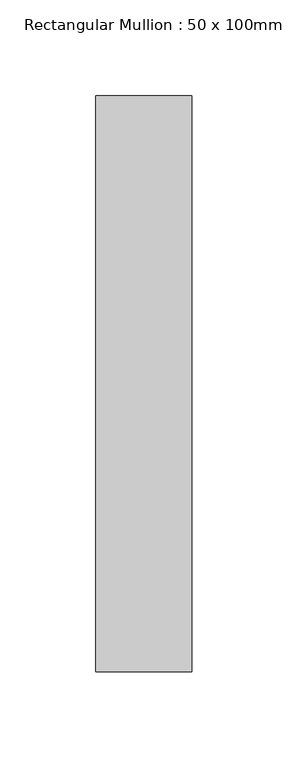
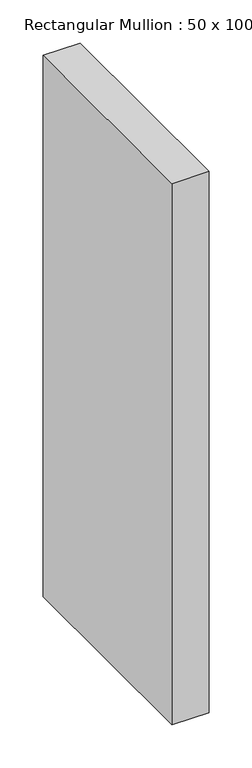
"""IFC4 building model written with IfcOpenShell, lengths in millimetres: member geometry, Rectangular Mullion : 50 x 100mm."""

from ifc_helpers import new_model, si_unit, frame, origin, place, context, project, spatial, polyline, outline, extrude, source, transform, mapped, element, save


def rectangular_mullion_50_x_100mm_762bf241(model_context):
    return source(origin(), model_context, "Body", "SweptSolid", [
        extrude(outline(polyline([(0.0, 175.0), (0.0, -125.0), (-50.0, -125.0), (-50.0, 175.0), (0.0, 175.0)])), frame((0.0, 0.0, -767.7583416), z_axis=(0.0, 0.0, 1.0), x_axis=(1.0, 0.0, 0.0)), (0.0, 0.0, 1.0), 767.7583416),
    ])


if __name__ == "__main__":
    model = new_model("IFC4")
    model_context = context("Model", 3, world=origin())
    ifc_project = project(units=[si_unit("LENGTHUNIT", "METRE", prefix="MILLI")], contexts=[model_context])
    site = spatial("IfcSite", under=ifc_project)
    building = spatial("IfcBuilding", under=site)
    placement = place(None, origin())
    rectangular_mullion_50_x_100mm_shape = rectangular_mullion_50_x_100mm_762bf241(model_context)
    element("IfcMember", 1, ObjectType="Rectangular Mullion : 50 x 100mm", at=placement, inside=building, context=model_context, shape_type="MappedRepresentation", body=[
        mapped(rectangular_mullion_50_x_100mm_shape, transform((0.0, 0.0, 0.0), x_axis=(1.0, 0.0, 0.0), y_axis=(0.0, 1.0, 0.0), z_axis=(0.0, 0.0, 1.0))),
    ])
    save(model, "model.ifc")
